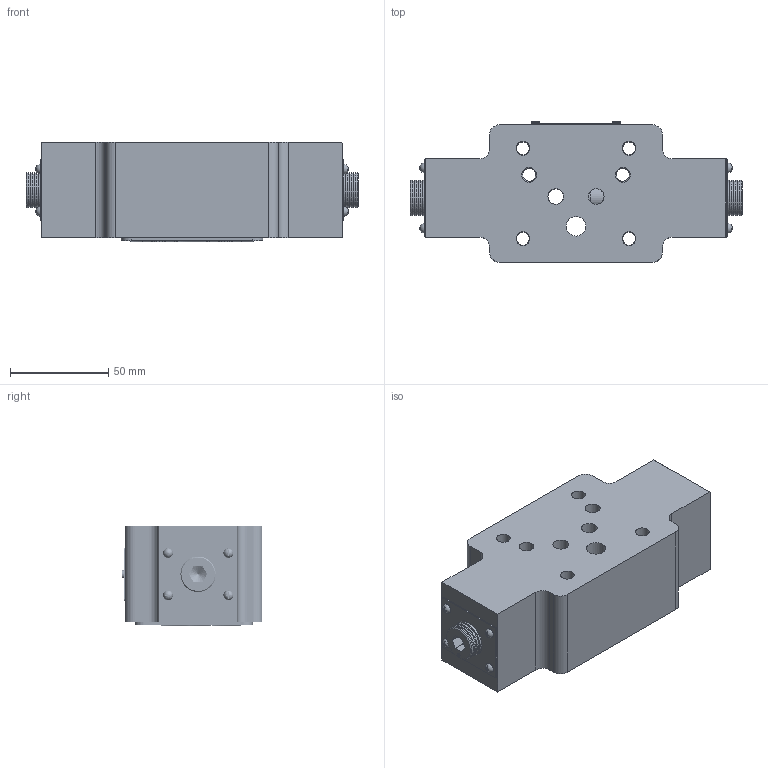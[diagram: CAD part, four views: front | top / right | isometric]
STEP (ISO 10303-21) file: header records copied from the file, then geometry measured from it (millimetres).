
FILE_DESCRIPTION(/* description */ (''),/* implementation_level */ '2;1');
FILE_NAME(/* name */ 'Z2FS10A-3XJ.stp',/* time_stamp */ '2024-09-27T14:11:18+08:00',/* author */ (''),/* organization */ (''),/* preprocessor_version */ 'ST-DEVELOPER v16.7',/* originating_system */ 'SIEMENS PLM Software NX 12.0',/* authorisation */ '');
FILE_SCHEMA (('AUTOMOTIVE_DESIGN { 1 0 10303 214 3 1 1 1 }'));
Products named in the file (1): Z2FS10A-3XJ
Bounding box: 169 x 71.6 x 50.5 mm (x, y, z)
Volume: 397518.5 mm3; surface area: 91813.7 mm2
Topology: 37 solids, 37 shells, 622 faces, 1466 edges, 951 vertices
Faces by surface type: plane 270, cylinder 199, cone 80, bspline 36, torus 25, sphere 12
Full cylindrical faces by diameter (mm): 1.5 x2, 1.6 x1, 1.8 x4, 2 x4, 2.5 x6, 3 x8, 4 x11, 6.5 x7, 6.7 x4, 7 x8, 7.5 x4, 8 x4, 9 x1, 10 x3, 10.7 x1, 11.4 x2, 11.6 x1, 12 x9, 15.7 x5, 17 x14, 18 x16, 19 x2, 21 x4, 22 x6, 24.268 x22
Entity records: 54818 total; most frequent: CARTESIAN_POINT 42204, DIRECTION 2515, ORIENTED_EDGE 2164, EDGE_CURVE 1082, AXIS2_PLACEMENT_3D 1076, EDGE_LOOP 943, VERTEX_POINT 842, FACE_BOUND 664
